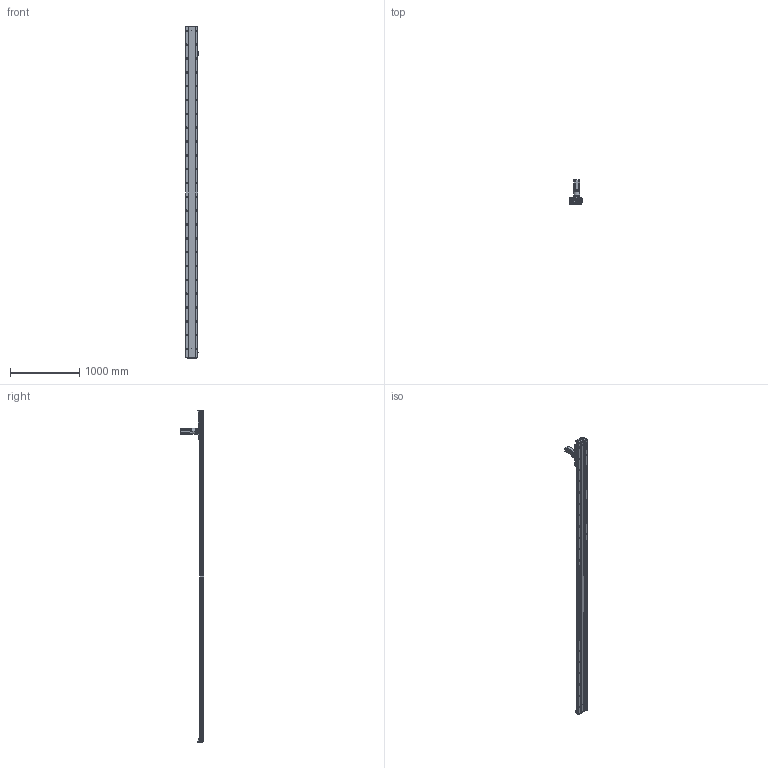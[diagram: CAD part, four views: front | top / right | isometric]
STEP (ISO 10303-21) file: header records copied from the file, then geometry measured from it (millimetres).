
FILE_DESCRIPTION (( 'STEP AP203' ), '1' );
FILE_NAME ('RY170-C-1000-UK.SLDASM_4300.step', '2021-03-03T00:50:19', ( '盈信电脑' ), ( '东莞市道滘镇水果街19号' ), 'SwSTEP 2.0', 'SolidWorks 2012', '' );
FILE_SCHEMA (( 'CONFIG_CONTROL_DESIGN' ));
Products named in the file (13): RY170-C-1000-UK.SLDASM_4300; RY170-喘沭賑輸; 左旋斜齿齿轮_M2_22齿_内孔20; RY170-喘沭滅袉蝶輸; 怢湛750W萇儂ㄗ80遺ㄘ; RY170-喘謫萇儂覃誹啣; TF080等撰; 覜茼ん672; RY170-1000-喘沭耀郪絳寢EGH20CA_4300; RY170外置感应片(200共用）; RY170綴裔啣ㄗ蜊秶ㄘ; RY170-1000齿条模组型材底座_4300; 絳寢賑輸EGH20CA
Assembly tree (22 placements, depth 2):
  RY170-C-1000-UK.SLDASM_4300
    RY170-1000齿条模组型材底座_4300
    絳寢賑輸EGH20CA  x6
    RY170-1000-喘沭耀郪絳寢EGH20CA_4300  x2
    RY170綴裔啣ㄗ蜊秶ㄘ  x2
    覜茼ん672  x3
    RY170外置感应片(200共用）
    RY170-喘謫萇儂覃誹啣
    怢湛750W萇儂ㄗ80遺ㄘ
    RY170-喘沭滅袉蝶輸  x2
    TF080等撰
    左旋斜齿齿轮_M2_22齿_内孔20
    RY170-喘沭賑輸
Bounding box: 188.7 x 343.5 x 4800 mm (x, y, z)
Volume: 22692517.9 mm3; surface area: 5998082.4 mm2
Topology: 24 solids, 24 shells, 5571 faces, 16046 edges, 10171 vertices
Faces by surface type: cylinder 2506, plane 2493, cone 518, bspline 50, torus 4
Entity records: 133830 total; most frequent: CARTESIAN_POINT 33863, ORIENTED_EDGE 21214, DIRECTION 20194, EDGE_CURVE 10607, AXIS2_PLACEMENT_3D 7613, VERTEX_POINT 6889, LINE 4968, VECTOR 4968
